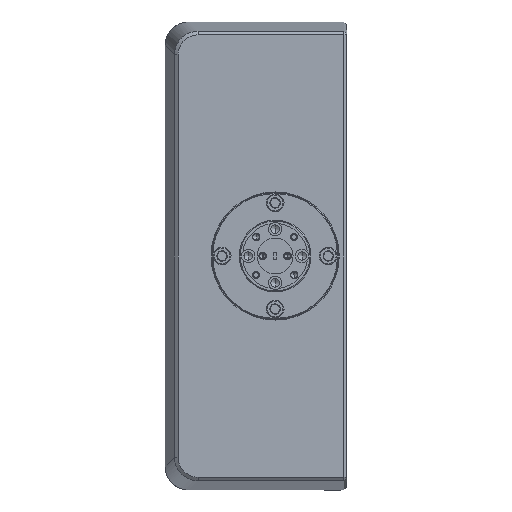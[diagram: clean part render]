
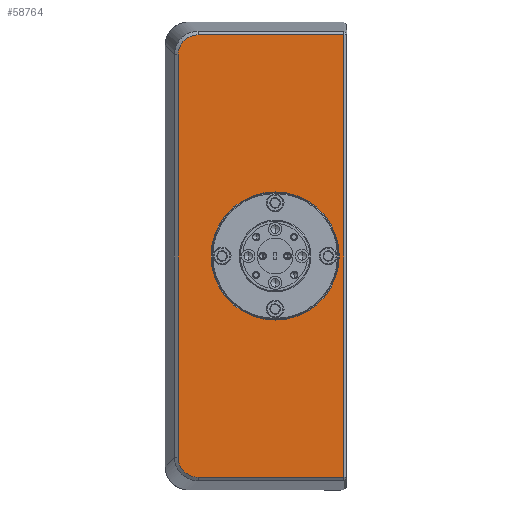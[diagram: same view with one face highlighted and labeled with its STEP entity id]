
A CAD part, left-side view. The second image highlights one B-rep face of the part: STEP entity #58764.
In plain terms, the highlighted planar face has unit normal (-1, 0, 0).
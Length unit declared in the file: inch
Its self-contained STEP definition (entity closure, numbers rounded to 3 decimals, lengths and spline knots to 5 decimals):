
#428 = ORIENTED_EDGE ( 'NONE', *, *, #68815, .F. ) ;
#478 = CARTESIAN_POINT ( 'NONE',  ( -2.75, -0.708, 2.2321 ) ) ;
#582 = DIRECTION ( 'NONE',  ( -1., 0., 0. ) ) ;
#801 = CARTESIAN_POINT ( 'NONE',  ( -2.75, -0.8752, 2.31232 ) ) ;
#1517 = EDGE_CURVE ( 'NONE', #50278, #46959, #44723, .T. ) ;
#2905 = CARTESIAN_POINT ( 'NONE',  ( -2.75, -2.40136, 0. ) ) ;
#4511 = VECTOR ( 'NONE', #8547, 39.37008 ) ;
#4526 = CARTESIAN_POINT ( 'NONE',  ( -2.75, -0.66628, 0. ) ) ;
#7628 = ORIENTED_EDGE ( 'NONE', *, *, #64919, .F. ) ;
#7650 = AXIS2_PLACEMENT_3D ( 'NONE', #31086, #10202, #51778 ) ;
#8198 = ORIENTED_EDGE ( 'NONE', *, *, #13858, .T. ) ;
#8547 = DIRECTION ( 'NONE',  ( 0., 0., 1. ) ) ;
#10202 = DIRECTION ( 'NONE',  ( 1., 0., 0. ) ) ;
#10238 = DIRECTION ( 'NONE',  ( -1., 0., 0. ) ) ;
#13858 = EDGE_CURVE ( 'NONE', #35933, #50278, #21073, .T. ) ;
#14446 = B_SPLINE_CURVE_WITH_KNOTS ( 'NONE', 3,
 ( #59098, #57757, #68921, #21097, #16563, #478, #63346, #42365, #15558, #36827 ),
 .UNSPECIFIED., .F., .F.,
 ( 4, 2, 2, 2, 4 ),
 ( 0., 0.25, 0.5, 0.75, 1. ),
 .UNSPECIFIED. ) ;
#14843 = EDGE_CURVE ( 'NONE', #21895, #54635, #58718, .T. ) ;
#14969 = CARTESIAN_POINT ( 'NONE',  ( -2.75, -2.40136, -2.31232 ) ) ;
#15558 = CARTESIAN_POINT ( 'NONE',  ( -2.75, -0.66628, 2.13095 ) ) ;
#16339 = CARTESIAN_POINT ( 'NONE',  ( -2.75, -1.68136, 0. ) ) ;
#16563 = CARTESIAN_POINT ( 'NONE',  ( -2.75, -0.74651, 2.2706 ) ) ;
#17148 = AXIS2_PLACEMENT_3D ( 'NONE', #16339, #582, #43159 ) ;
#18791 = ORIENTED_EDGE ( 'NONE', *, *, #38511, .T. ) ;
#21028 = CARTESIAN_POINT ( 'NONE',  ( -2.75, -0.69251, -2.20886 ) ) ;
#21073 = B_SPLINE_CURVE_WITH_KNOTS ( 'NONE', 3,
 ( #63619, #31516, #32549, #21028, #22053, #64639, #52874, #27657, #38456, #63977 ),
 .UNSPECIFIED., .F., .F.,
 ( 4, 2, 2, 2, 4 ),
 ( 0., 0.25, 0.5, 0.75, 1. ),
 .UNSPECIFIED. ) ;
#21097 = CARTESIAN_POINT ( 'NONE',  ( -2.75, -0.76974, 2.28609 ) ) ;
#21736 = DIRECTION ( 'NONE',  ( 0., 1., 0. ) ) ;
#21895 = VERTEX_POINT ( 'NONE', #35994 ) ;
#22053 = CARTESIAN_POINT ( 'NONE',  ( -2.75, -0.70801, -2.2321 ) ) ;
#22942 = EDGE_LOOP ( 'NONE', ( #8198, #39882, #18791, #62571, #43637, #42386 ) ) ;
#27657 = CARTESIAN_POINT ( 'NONE',  ( -2.75, -0.82021, -2.30689 ) ) ;
#29468 = EDGE_LOOP ( 'NONE', ( #428, #7628 ) ) ;
#30557 = CIRCLE ( 'NONE', #59509, 0.67 ) ;
#31086 = CARTESIAN_POINT ( 'NONE',  ( -2.75, -1.48136, 0. ) ) ;
#31516 = CARTESIAN_POINT ( 'NONE',  ( -2.75, -0.66628, -2.13089 ) ) ;
#32549 = CARTESIAN_POINT ( 'NONE',  ( -2.75, -0.67172, -2.15839 ) ) ;
#34861 = VERTEX_POINT ( 'NONE', #63745 ) ;
#35933 = VERTEX_POINT ( 'NONE', #50776 ) ;
#35994 = CARTESIAN_POINT ( 'NONE',  ( -2.75, -2.40136, 2.31232 ) ) ;
#36827 = CARTESIAN_POINT ( 'NONE',  ( -2.75, -0.66628, 2.1034 ) ) ;
#37286 = VERTEX_POINT ( 'NONE', #43421 ) ;
#38456 = CARTESIAN_POINT ( 'NONE',  ( -2.75, -0.84766, -2.31233 ) ) ;
#38511 = EDGE_CURVE ( 'NONE', #46959, #21895, #66784, .T. ) ;
#39882 = ORIENTED_EDGE ( 'NONE', *, *, #1517, .T. ) ;
#41227 = FACE_OUTER_BOUND ( 'NONE', #22942, .T. ) ;
#42365 = CARTESIAN_POINT ( 'NONE',  ( -2.75, -0.67171, 2.15839 ) ) ;
#42386 = ORIENTED_EDGE ( 'NONE', *, *, #52470, .T. ) ;
#43159 = DIRECTION ( 'NONE',  ( 0., 0., 1. ) ) ;
#43421 = CARTESIAN_POINT ( 'NONE',  ( -2.75, -1.68136, -0.67 ) ) ;
#43637 = ORIENTED_EDGE ( 'NONE', *, *, #56407, .T. ) ;
#44723 = LINE ( 'NONE', #48714, #65097 ) ;
#46959 = VERTEX_POINT ( 'NONE', #14969 ) ;
#48714 = CARTESIAN_POINT ( 'NONE',  ( -2.75, -1.48136, -2.31232 ) ) ;
#50278 = VERTEX_POINT ( 'NONE', #61873 ) ;
#50593 = VECTOR ( 'NONE', #57894, 39.37008 ) ;
#50776 = CARTESIAN_POINT ( 'NONE',  ( -2.75, -0.66628, -2.1034 ) ) ;
#51778 = DIRECTION ( 'NONE',  ( 0., 0., -1. ) ) ;
#52373 = LINE ( 'NONE', #4526, #50593 ) ;
#52385 = VERTEX_POINT ( 'NONE', #66992 ) ;
#52470 = EDGE_CURVE ( 'NONE', #52385, #35933, #52373, .T. ) ;
#52581 = VECTOR ( 'NONE', #21736, 39.37008 ) ;
#52874 = CARTESIAN_POINT ( 'NONE',  ( -2.75, -0.76974, -2.28609 ) ) ;
#54635 = VERTEX_POINT ( 'NONE', #801 ) ;
#56407 = EDGE_CURVE ( 'NONE', #54635, #52385, #14446, .T. ) ;
#57324 = DIRECTION ( 'NONE',  ( 0., 0., 1. ) ) ;
#57757 = CARTESIAN_POINT ( 'NONE',  ( -2.75, -0.84772, 2.31233 ) ) ;
#57894 = DIRECTION ( 'NONE',  ( 0., 0., -1. ) ) ;
#57951 = PLANE ( 'NONE',  #7650 ) ;
#58718 = LINE ( 'NONE', #64652, #52581 ) ;
#58764 = ADVANCED_FACE ( 'NONE', ( #41227, #62537 ), #57951, .F. ) ;
#59098 = CARTESIAN_POINT ( 'NONE',  ( -2.75, -0.8752, 2.31232 ) ) ;
#59509 = AXIS2_PLACEMENT_3D ( 'NONE', #67786, #10238, #57324 ) ;
#61725 = CIRCLE ( 'NONE', #17148, 0.67 ) ;
#61873 = CARTESIAN_POINT ( 'NONE',  ( -2.75, -0.8752, -2.31232 ) ) ;
#62537 = FACE_BOUND ( 'NONE', #29468, .T. ) ;
#62571 = ORIENTED_EDGE ( 'NONE', *, *, #14843, .T. ) ;
#63346 = CARTESIAN_POINT ( 'NONE',  ( -2.75, -0.69252, 2.20886 ) ) ;
#63619 = CARTESIAN_POINT ( 'NONE',  ( -2.75, -0.66628, -2.1034 ) ) ;
#63745 = CARTESIAN_POINT ( 'NONE',  ( -2.75, -1.68136, 0.67 ) ) ;
#63977 = CARTESIAN_POINT ( 'NONE',  ( -2.75, -0.8752, -2.31232 ) ) ;
#64639 = CARTESIAN_POINT ( 'NONE',  ( -2.75, -0.7465, -2.27061 ) ) ;
#64652 = CARTESIAN_POINT ( 'NONE',  ( -2.75, -1.48136, 2.31232 ) ) ;
#64919 = EDGE_CURVE ( 'NONE', #37286, #34861, #61725, .T. ) ;
#65097 = VECTOR ( 'NONE', #66356, 39.37008 ) ;
#66356 = DIRECTION ( 'NONE',  ( 0., -1., 0. ) ) ;
#66784 = LINE ( 'NONE', #2905, #4511 ) ;
#66992 = CARTESIAN_POINT ( 'NONE',  ( -2.75, -0.66628, 2.1034 ) ) ;
#67786 = CARTESIAN_POINT ( 'NONE',  ( -2.75, -1.68136, 0. ) ) ;
#68815 = EDGE_CURVE ( 'NONE', #34861, #37286, #30557, .T. ) ;
#68921 = CARTESIAN_POINT ( 'NONE',  ( -2.75, -0.82022, 2.30689 ) ) ;
